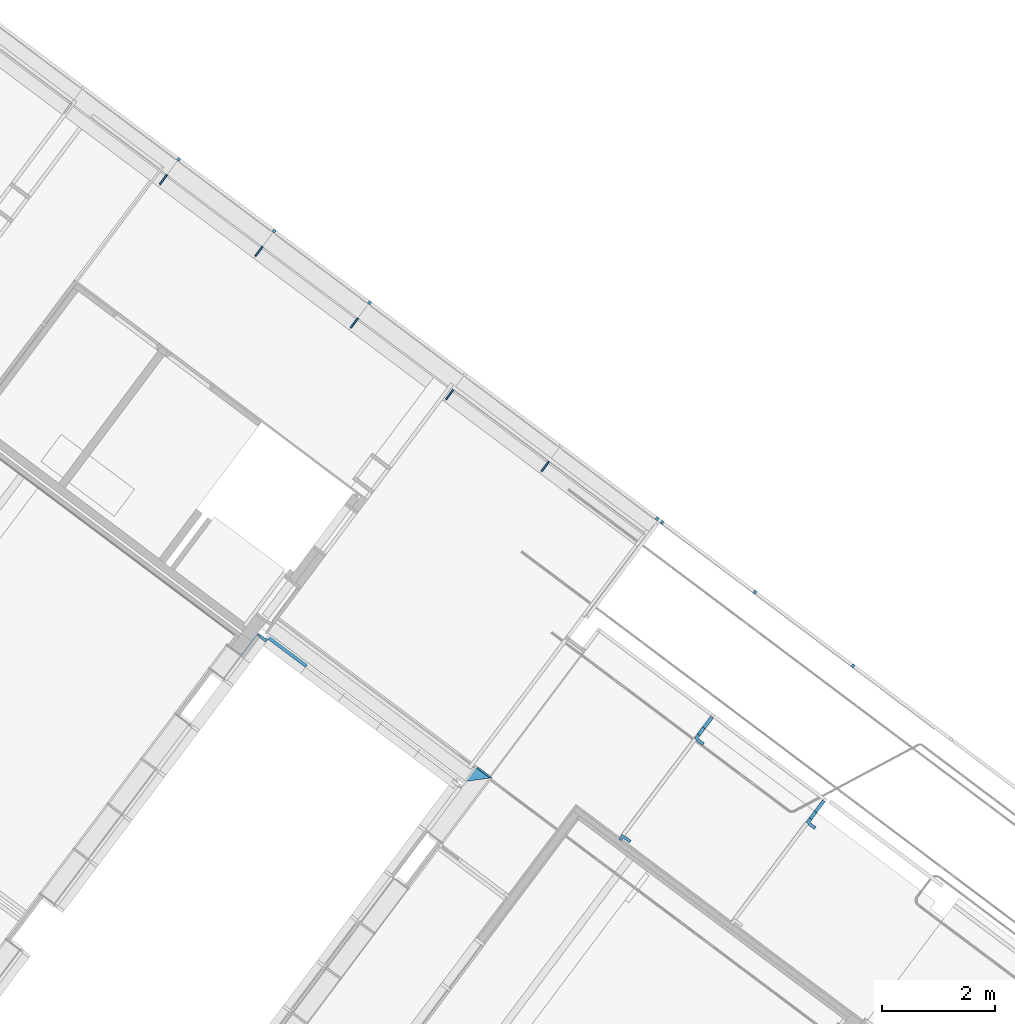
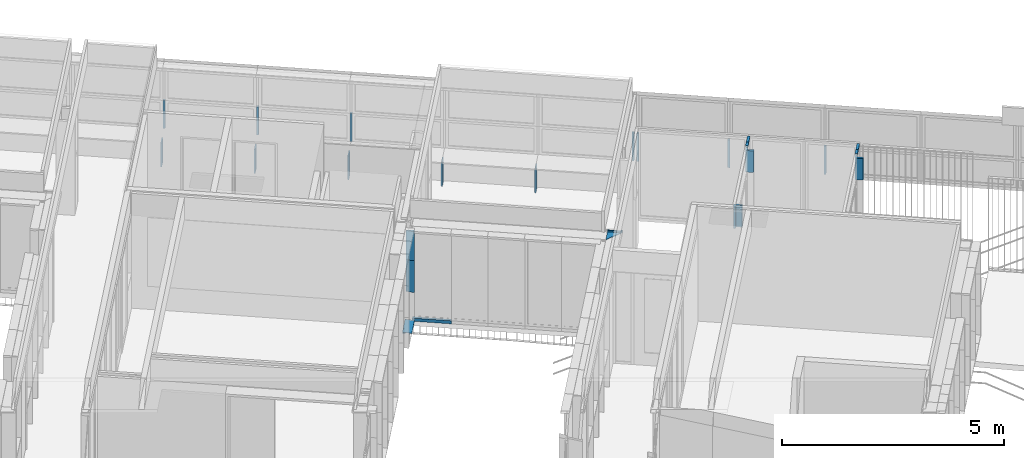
# One storey, part 105 of 243: 24 members, 10 elements without a shape of their own.
"""IFC2X3 building model written with IfcOpenShell, lengths in metres."""

import ifcopenshell
import ifcopenshell.guid

model = None  # the IFC model being written
_history = None  # IfcOwnerHistory: only IFC2X3 demands one
_inside = {}  # id of a spatial element -> (the spatial element, [elements in it])
_under = {}  # id of a project, library or spatial element -> (it, [spatial elements below it])
_declared = {}  # id of a project -> (the project, [libraries it declares])
_typed = {}  # id of a type object -> (the type object, [elements of that type])
_made_of = {}  # id of a material, layer set ... -> (it, [elements and type objects made of it])


def new_model(schema):
    """Start an empty IFC model of exactly this schema.

    Asked for "IFC4X3", IfcOpenShell would pick the latest addendum, in which some entities
    have other attributes; the version numbers below select the first issue.
    IFC2X3 requires an IfcOwnerHistory on every rooted entity: one is made here for all.
    """
    global model, _history
    if schema == "IFC4X3":
        model = ifcopenshell.file(schema_version=(4, 3, 0, 0))
    else:
        model = ifcopenshell.file(schema=schema)
    _inside.clear()
    _under.clear()
    _declared.clear()
    _typed.clear()
    _made_of.clear()
    _history = None
    if model.schema == "IFC2X3":
        org = make("IfcOrganization", Name="unknown")
        user = make(
            "IfcPersonAndOrganization",
            ThePerson=make("IfcPerson", FamilyName="unknown"),
            TheOrganization=org,
        )
        app = make(
            "IfcApplication",
            ApplicationDeveloper=org,
            Version="unknown",
            ApplicationFullName="unknown",
            ApplicationIdentifier="unknown",
        )
        _history = make(
            "IfcOwnerHistory",
            OwningUser=user,
            OwningApplication=app,
            ChangeAction="ADDED",
            CreationDate=0,
        )
    return model


def make(cls, **values):
    """One entity of the class cls with the attributes given. An attribute that is None is left unset."""
    return model.create_entity(
        cls, **{name: value for name, value in values.items() if value is not None}
    )


def entity(cls, *values):
    """Any entity or typed value of the class cls, its attributes in the order of the schema. None: left unset."""
    e = model.create_entity(cls)
    for i, value in enumerate(values):
        if value is not None:
            e[i] = value
    return e


def rooted(cls, **values):
    """An entity with a GlobalId (a new one), such as an element, a storey or a relation."""
    return make(cls, GlobalId=ifcopenshell.guid.new(), OwnerHistory=_history, **values)


def si_unit(unit_type, name, prefix=None):
    """IfcSIUnit, for example si_unit("LENGTHUNIT", "METRE", prefix="MILLI")."""
    return make("IfcSIUnit", UnitType=unit_type, Prefix=prefix, Name=name)


def converted_unit(unit_type, name, factor, base, dimensions=None, offset=None):
    """IfcConversionBasedUnit, such as the inch: factor (a typed value) times the base unit."""
    return make(
        "IfcConversionBasedUnit"
        if offset is None
        else "IfcConversionBasedUnitWithOffset",
        ConversionOffset=offset,
        Dimensions=None
        if dimensions is None
        else entity("IfcDimensionalExponents", *dimensions),
        UnitType=unit_type,
        Name=name,
        ConversionFactor=make(
            "IfcMeasureWithUnit", ValueComponent=factor, UnitComponent=base
        ),
    )


def derived_unit(unit_type, elements):
    """IfcDerivedUnit: a product of units, each with its exponent."""
    return make(
        "IfcDerivedUnit",
        Elements=[
            make("IfcDerivedUnitElement", Unit=unit, Exponent=power)
            for unit, power in elements
        ],
        UnitType=unit_type,
    )


def assignment(units):
    """IfcUnitAssignment: the units of a project."""
    return None if units is None else make("IfcUnitAssignment", Units=units)


def point(xyz):
    """IfcCartesianPoint."""
    return None if xyz is None else make("IfcCartesianPoint", Coordinates=xyz)


def direction(xyz):
    """IfcDirection."""
    return None if xyz is None else make("IfcDirection", DirectionRatios=xyz)


def frame(location, z_axis=None, x_axis=None):
    """IfcAxis2Placement3D, a coordinate frame: its origin and axes. An axis left out is left unset."""
    return make(
        "IfcAxis2Placement3D",
        Location=point(location),
        Axis=direction(z_axis),
        RefDirection=direction(x_axis),
    )


def frame_2d(location, x_axis=None):
    """IfcAxis2Placement2D, a coordinate frame in the plane: its origin and x axis."""
    return make(
        "IfcAxis2Placement2D", Location=point(location), RefDirection=direction(x_axis)
    )


def origin():
    """The frame at (0, 0, 0) with its axes left unset."""
    return frame((0.0, 0.0, 0.0))


def place(relative_to, where):
    """IfcLocalPlacement: puts the frame where relative to a parent placement (None: the world)."""
    return make(
        "IfcLocalPlacement", PlacementRelTo=relative_to, RelativePlacement=where
    )


def context(
    kind, dimensions, precision=None, world=None, true_north=None, identifier=None
):
    """IfcGeometricRepresentationContext, for example the 3D "Model" context."""
    return make(
        "IfcGeometricRepresentationContext",
        ContextIdentifier=identifier,
        ContextType=kind,
        CoordinateSpaceDimension=dimensions,
        Precision=precision,
        WorldCoordinateSystem=world,
        TrueNorth=true_north,
    )


def subcontext(parent, identifier, kind, view, scale=None):
    """IfcGeometricRepresentationSubContext, for example "Body" below "Model"."""
    return make(
        "IfcGeometricRepresentationSubContext",
        ContextIdentifier=identifier,
        ContextType=kind,
        ParentContext=parent,
        TargetScale=scale,
        TargetView=view,
    )


def project(units=None, contexts=None):
    """IfcProject with its units and contexts."""
    return rooted(
        "IfcProject",
        Name="project",
        RepresentationContexts=contexts,
        UnitsInContext=assignment(units),
    )


def spatial(cls, under=None, at=None, **own):
    """A site, building, storey or space (cls), placed at a placement, below another one or the project."""
    s = rooted(cls, ObjectPlacement=at, **own)
    if under is not None:
        _under.setdefault(under.id(), (under, []))[1].append(s)
    return s


def polyline(points):
    """IfcPolyline through the points."""
    return make("IfcPolyline", Points=[point(p) for p in points])


def circle_curve(where, radius):
    """IfcCircle in the frame where."""
    return make("IfcCircle", Position=where, Radius=radius)


def parameter(value):
    """IfcParameterValue: where a trimmed curve begins or ends, as a parameter of its basis curve."""
    return model.create_entity("IfcParameterValue", value)


def trimmed(basis, trim1, trim2, sense, master):
    """IfcTrimmedCurve: the piece of a basis curve between two trims."""
    return make(
        "IfcTrimmedCurve",
        BasisCurve=basis,
        Trim1=trim1,
        Trim2=trim2,
        SenseAgreement=sense,
        MasterRepresentation=master,
    )


def segment(curve, same_sense, transition):
    """IfcCompositeCurveSegment."""
    return make(
        "IfcCompositeCurveSegment",
        Transition=transition,
        SameSense=same_sense,
        ParentCurve=curve,
    )


def composite_curve(segments, self_intersect=None):
    """IfcCompositeCurve: segments joined end to end."""
    return make("IfcCompositeCurve", Segments=segments, SelfIntersect=self_intersect)


def profile(cls, at=None, kind="AREA", **sizes):
    """A parametric profile (cls). Its sizes go by their IFC names, for example OverallWidth=200.0."""
    return make(cls, ProfileType=kind, Position=at, **sizes)


def rectangle(**sizes):
    """IfcRectangleProfileDef."""
    return profile("IfcRectangleProfileDef", **sizes)


def outline(outer, holes=None, kind="AREA"):
    """IfcArbitraryClosedProfileDef: a profile drawn as a closed curve; with holes, ...WithVoids."""
    if holes is None:
        return make("IfcArbitraryClosedProfileDef", ProfileType=kind, OuterCurve=outer)
    return make(
        "IfcArbitraryProfileDefWithVoids",
        ProfileType=kind,
        OuterCurve=outer,
        InnerCurves=holes,
    )


def extrude(swept, where, along, depth):
    """IfcExtrudedAreaSolid: the profile swept, set in the frame where, extruded along a direction by depth."""
    return make(
        "IfcExtrudedAreaSolid",
        SweptArea=swept,
        Position=where,
        ExtrudedDirection=direction(along),
        Depth=depth,
    )


def clip(a, b, op="DIFFERENCE"):
    """IfcBooleanClippingResult: the solid a cut by the half space b."""
    return make(
        "IfcBooleanClippingResult", Operator=op, FirstOperand=a, SecondOperand=b
    )


def halfspace(plane, agree):
    """IfcHalfSpaceSolid: all space on one side of the plane z = 0 of the frame plane."""
    return make(
        "IfcHalfSpaceSolid",
        BaseSurface=make("IfcPlane", Position=plane),
        AgreementFlag=agree,
    )


def shape(context_of_items, identifier, shape_type, items):
    """IfcShapeRepresentation: the items that make up one representation, for example the "Body"."""
    return make(
        "IfcShapeRepresentation",
        ContextOfItems=context_of_items,
        RepresentationIdentifier=identifier,
        RepresentationType=shape_type,
        Items=items,
    )


def source(mapping_origin, context_of_items, identifier, shape_type, items):
    """IfcRepresentationMap: a shape defined once, which mapped items show again and again."""
    return make(
        "IfcRepresentationMap",
        MappingOrigin=mapping_origin,
        MappedRepresentation=shape(context_of_items, identifier, shape_type, items),
    )


def transform(
    local_origin,
    x_axis=None,
    y_axis=None,
    z_axis=None,
    scale=None,
    scale2=None,
    scale3=None,
    uniform=True,
):
    """IfcCartesianTransformationOperator3D, or its non-uniform kind. x_axis, y_axis, z_axis: its Axis1, 2, 3."""
    if uniform:
        return make(
            "IfcCartesianTransformationOperator3D",
            Axis1=direction(x_axis),
            Axis2=direction(y_axis),
            LocalOrigin=point(local_origin),
            Scale=scale,
            Axis3=direction(z_axis),
        )
    return make(
        "IfcCartesianTransformationOperator3DnonUniform",
        Axis1=direction(x_axis),
        Axis2=direction(y_axis),
        LocalOrigin=point(local_origin),
        Scale=scale,
        Axis3=direction(z_axis),
        Scale2=scale2,
        Scale3=scale3,
    )


def mapped(mapping_source, mapping_target):
    """IfcMappedItem: shows the shape of a source again, moved by a transform."""
    return make(
        "IfcMappedItem", MappingSource=mapping_source, MappingTarget=mapping_target
    )


def material(Name=None, Category=None):
    """IfcMaterial."""
    return make("IfcMaterial", Name=Name, Category=Category)


def made_of(thing, what):
    """Note that an element or type object is made of a material, layer set ...; save() writes the relation."""
    if what is not None:
        _made_of.setdefault(what.id(), (what, []))[1].append(thing)
    return thing


def type_object(cls, material=None, **own):
    """A type object (cls), such as IfcWallType, which elements share."""
    return made_of(rooted(cls, **own), material)


def type_shapes(of_type, sources):
    """Give a type object the sources (RepresentationMaps) that its elements show as mapped items."""
    of_type.RepresentationMaps = sources


def element(
    cls,
    number,
    at=None,
    inside=None,
    cuts=None,
    type_object=None,
    material=None,
    context=None,
    identifier="Body",
    shape_type=None,
    held_by="IfcProductDefinitionShape",
    body=None,
    shapes=None,
    **own,
):
    """One element of the class cls, such as IfcWall. Its Tag is "e" and its number.

    at: its placement. inside: the storey or other place that contains it. cuts: it is an
    opening in that element (IfcRelVoidsElement). A single representation is given by context,
    identifier, shape_type and body (its items); several are given by shapes. held_by: the class
    of the entity that holds the representations. save() writes the other relations.
    """
    e = rooted(cls, Tag="e%d" % number, ObjectPlacement=at, **own)
    if body is not None:
        shapes = [shape(context, identifier, shape_type, body)]
    if shapes is not None:
        e.Representation = make(held_by, Representations=shapes)
    if inside is not None:
        _inside.setdefault(inside.id(), (inside, []))[1].append(e)
    if cuts is not None:
        rooted(
            "IfcRelVoidsElement", RelatingBuildingElement=cuts, RelatedOpeningElement=e
        )
    if type_object is not None:
        _typed.setdefault(type_object.id(), (type_object, []))[1].append(e)
    return made_of(e, material)


def aggregate(whole, parts):
    """IfcRelAggregates: a whole, such as a stair, and the parts it consists of."""
    return rooted("IfcRelAggregates", RelatingObject=whole, RelatedObjects=parts)


def save(model, path):
    """Write the relations noted so far, then the file.

    IfcRelAggregates (storeys below a building ...), IfcRelContainedInSpatialStructure (elements
    in a storey), IfcRelDefinesByType, IfcRelAssociatesMaterial and IfcRelDeclares: one each for
    every whole, place, type object, material and project.
    """
    for whole, parts in _under.values():
        aggregate(whole, parts)
    for where, things in _inside.values():
        rooted(
            "IfcRelContainedInSpatialStructure",
            RelatedElements=things,
            RelatingStructure=where,
        )
    for kind, things in _typed.values():
        rooted("IfcRelDefinesByType", RelatedObjects=things, RelatingType=kind)
    for what, things in _made_of.values():
        rooted("IfcRelAssociatesMaterial", RelatedObjects=things, RelatingMaterial=what)
    for by, libraries in _declared.values():
        rooted("IfcRelDeclares", RelatingContext=by, RelatedDefinitions=libraries)
    model.write(path)


model = new_model("IFC2X3")

# Units and contexts
model_context = context("Model", 3, precision=1e-05, world=origin(), true_north=direction((6.123031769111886e-17, 1.0)))
body_context = subcontext(model_context, "Body", "Model", "MODEL_VIEW")
ifc_project = project(units=[si_unit("LENGTHUNIT", "METRE"), si_unit("AREAUNIT", "SQUARE_METRE"), si_unit("VOLUMEUNIT", "CUBIC_METRE"), converted_unit("PLANEANGLEUNIT", "DEGREE", entity("IfcRatioMeasure", 0.017453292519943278), si_unit("PLANEANGLEUNIT", "RADIAN"), dimensions=[0, 0, 0, 0, 0, 0, 0]), si_unit("MASSUNIT", "GRAM", prefix="KILO"), derived_unit("MASSDENSITYUNIT", [(si_unit("MASSUNIT", "GRAM", prefix="KILO"), 1), (si_unit("LENGTHUNIT", "METRE"), -3)]), derived_unit("IONCONCENTRATIONUNIT", [(si_unit("MASSUNIT", "GRAM", prefix="KILO"), 1), (si_unit("LENGTHUNIT", "METRE"), -3)]), derived_unit("MOMENTOFINERTIAUNIT", [(si_unit("LENGTHUNIT", "METRE"), 4)]), si_unit("TIMEUNIT", "SECOND"), si_unit("FREQUENCYUNIT", "HERTZ"), si_unit("THERMODYNAMICTEMPERATUREUNIT", "DEGREE_CELSIUS"), derived_unit("THERMALTRANSMITTANCEUNIT", [(si_unit("MASSUNIT", "GRAM", prefix="KILO"), 1), (si_unit("THERMODYNAMICTEMPERATUREUNIT", "KELVIN"), -1), (si_unit("TIMEUNIT", "SECOND"), -3)]), derived_unit("THERMALCONDUCTANCEUNIT", [(si_unit("MASSUNIT", "GRAM", prefix="KILO"), 1), (si_unit("THERMODYNAMICTEMPERATUREUNIT", "KELVIN"), -1), (si_unit("TIMEUNIT", "SECOND"), -3), (si_unit("LENGTHUNIT", "METRE"), 1)]), derived_unit("VOLUMETRICFLOWRATEUNIT", [(si_unit("LENGTHUNIT", "METRE"), 3), (si_unit("TIMEUNIT", "SECOND"), -1)]), derived_unit("MASSFLOWRATEUNIT", [(si_unit("MASSUNIT", "GRAM", prefix="KILO"), 1), (si_unit("TIMEUNIT", "SECOND"), -1)]), derived_unit("ROTATIONALFREQUENCYUNIT", [(si_unit("TIMEUNIT", "SECOND"), -1)]), si_unit("ELECTRICCURRENTUNIT", "AMPERE"), si_unit("ELECTRICVOLTAGEUNIT", "VOLT"), si_unit("POWERUNIT", "WATT"), si_unit("FORCEUNIT", "NEWTON", prefix="KILO"), si_unit("ILLUMINANCEUNIT", "LUX"), si_unit("LUMINOUSFLUXUNIT", "LUMEN"), si_unit("LUMINOUSINTENSITYUNIT", "CANDELA"), derived_unit("USERDEFINED", [(si_unit("MASSUNIT", "GRAM", prefix="KILO"), -1), (si_unit("LENGTHUNIT", "METRE"), -2), (si_unit("TIMEUNIT", "SECOND"), 3), (si_unit("LUMINOUSFLUXUNIT", "LUMEN"), 1)]), derived_unit("USERDEFINED", [(si_unit("MASSUNIT", "GRAM", prefix="KILO"), 1), (si_unit("TIMEUNIT", "SECOND"), -3), (si_unit("LENGTHUNIT", "METRE"), 3), (si_unit("ELECTRICCURRENTUNIT", "AMPERE"), -2)]), derived_unit("SOUNDPOWERUNIT", [(si_unit("MASSUNIT", "GRAM", prefix="KILO"), 1), (si_unit("TIMEUNIT", "SECOND"), -3), (si_unit("LENGTHUNIT", "METRE"), 2)]), derived_unit("SOUNDPRESSUREUNIT", [(si_unit("MASSUNIT", "GRAM", prefix="KILO"), 1), (si_unit("LENGTHUNIT", "METRE"), -1), (si_unit("TIMEUNIT", "SECOND"), -2)]), derived_unit("LINEARVELOCITYUNIT", [(si_unit("LENGTHUNIT", "METRE"), 1), (si_unit("TIMEUNIT", "SECOND"), -1)]), si_unit("PRESSUREUNIT", "PASCAL"), derived_unit("USERDEFINED", [(si_unit("MASSUNIT", "GRAM", prefix="KILO"), 1), (si_unit("LENGTHUNIT", "METRE"), -2), (si_unit("TIMEUNIT", "SECOND"), -2)]), derived_unit("LINEARFORCEUNIT", [(si_unit("MASSUNIT", "GRAM", prefix="KILO"), 1), (si_unit("TIMEUNIT", "SECOND"), -2)]), derived_unit("PLANARFORCEUNIT", [(si_unit("MASSUNIT", "GRAM", prefix="KILO"), 1), (si_unit("LENGTHUNIT", "METRE"), -1), (si_unit("TIMEUNIT", "SECOND"), -2)]), derived_unit("SPECIFICHEATCAPACITYUNIT", [(si_unit("THERMODYNAMICTEMPERATUREUNIT", "KELVIN"), -1), (si_unit("LENGTHUNIT", "METRE"), 2), (si_unit("TIMEUNIT", "SECOND"), -2)]), derived_unit("HEATINGVALUEUNIT", [(si_unit("LENGTHUNIT", "METRE"), 2), (si_unit("TIMEUNIT", "SECOND"), -2)]), derived_unit("VAPORPERMEABILITYUNIT", [(si_unit("LENGTHUNIT", "METRE"), -1), (si_unit("TIMEUNIT", "SECOND"), 1)]), derived_unit("DYNAMICVISCOSITYUNIT", [(si_unit("MASSUNIT", "GRAM", prefix="KILO"), 1), (si_unit("TIMEUNIT", "SECOND"), -1), (si_unit("LENGTHUNIT", "METRE"), -1)]), derived_unit("THERMALEXPANSIONCOEFFICIENTUNIT", [(si_unit("THERMODYNAMICTEMPERATUREUNIT", "KELVIN"), -1)]), derived_unit("MODULUSOFELASTICITYUNIT", [(si_unit("MASSUNIT", "GRAM", prefix="KILO"), 1), (si_unit("LENGTHUNIT", "METRE"), -1), (si_unit("TIMEUNIT", "SECOND"), -2)]), derived_unit("ISOTHERMALMOISTURECAPACITYUNIT", [(si_unit("LENGTHUNIT", "METRE"), 3), (si_unit("MASSUNIT", "GRAM", prefix="KILO"), -1)]), derived_unit("MOISTUREDIFFUSIVITYUNIT", [(si_unit("TIMEUNIT", "SECOND"), -1), (si_unit("LENGTHUNIT", "METRE"), 2)])], contexts=[model_context])

# Site, building, storey
site_placement = place(None, frame((0.0, 0.0, 235.0), z_axis=(0.0, 0.0, 1.0), x_axis=(-0.7996477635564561, 0.6004693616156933, 0.0)))
site = spatial("IfcSite", under=ifc_project, at=site_placement, Name="Default", CompositionType="ELEMENT")
building_placement = place(site_placement, origin())
building = spatial("IfcBuilding", under=site, at=building_placement, CompositionType="ELEMENT")
storey_placement = place(building_placement, origin())
storey = spatial("IfcBuildingStorey", under=building, at=storey_placement, Name="P0- Escola", CompositionType="ELEMENT", Elevation=0.0)

# Curtain wall, members
curtain_wall_type_1 = type_object("IfcCurtainWallType", Name="Muro cortina:MC- EXT- MC2", PredefinedType="NOTDEFINED")
curtain_wall_1_placement = place(storey_placement, origin())
curtain_wall_1 = element("IfcCurtainWall", 1, at=curtain_wall_1_placement, inside=storey, type_object=curtain_wall_type_1, Name="Muro cortina:MC- EXT- MC2", ObjectType="Muro cortina:MC- EXT- MC2")
ifc_material_1 = material(Name="_Alumini- T1- Perfil")
member_type_1 = type_object("IfcMemberType", Name="Montante rectangular:MC- Alu- 140x52,5 cm- Fa patis- Centre", PredefinedType="MULLION", material=ifc_material_1)
shared_shape_1 = source(origin(), body_context, "Body", "SweptSolid", [
    extrude(outline(polyline([(-0.11699999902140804, -0.026250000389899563), (0.021999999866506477, -0.026250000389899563), (0.021999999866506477, -0.015000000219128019), (0.07299999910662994, -0.015000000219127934), (0.07299999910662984, 0.015000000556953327), (0.02200000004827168, 0.015000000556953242), (0.02200000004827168, 0.026250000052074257), (-0.11699999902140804, 0.026250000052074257), (-0.11699999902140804, -0.026250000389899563)])), frame((-0.026250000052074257, 0.022999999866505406, -0.8750000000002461), z_axis=(0.0, 0.0, 1.0), x_axis=(0.0, -1.0, 0.0)), (0.0, 0.0, 1.0), 0.8750000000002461),
])
type_shapes(member_type_1, [shared_shape_1])
member_1_placement = place(curtain_wall_1_placement, frame((41.04514768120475, -36.44138994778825, 0.8200000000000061), z_axis=(0.0, 0.0, -1.0), x_axis=(0.0, -1.0, 0.0)))
member_1 = element("IfcMember", 2, at=member_1_placement, type_object=member_type_1, material=ifc_material_1, Name="Montante rectangular:MC- Alu- 140x52,5 cm- Fa patis- Centre", ObjectType="Montante rectangular:MC- Alu- 140x52,5 cm- Fa patis- Centre", context=body_context, shape_type="MappedRepresentation", body=[
    mapped(shared_shape_1, transform((0.0, 0.0, 0.0), scale=1.0)),
])
member_type_2 = type_object("IfcMemberType", Name="Montante rectangular:MC- Alu- 140x52,5 cm- Fa patis- inferior", PredefinedType="MULLION", material=ifc_material_1)
shared_shape_2 = source(origin(), body_context, "Body", "SweptSolid", [
    extrude(outline(composite_curve([segment(polyline([(0.1278672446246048, -0.025867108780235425), (0.14416724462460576, -0.025867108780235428)]), True, "CONTINUOUS"), segment(polyline([(0.14416724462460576, -0.025867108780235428), (0.1441672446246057, 0.009132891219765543)]), True, "CONTINUOUS"), segment(polyline([(0.1441672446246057, 0.009132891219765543), (0.06786724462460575, 0.00913289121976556)]), True, "CONTINUOUS"), segment(polyline([(0.06786724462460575, 0.00913289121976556), (0.06786724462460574, -0.021159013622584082)]), True, "CONTINUOUS"), segment(polyline([(0.06786724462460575, -0.021159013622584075), (-0.030132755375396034, -0.012332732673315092)]), True, "CONTINUOUS"), segment(polyline([(-0.03013275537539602, -0.012332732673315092), (-0.030132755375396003, 0.02713289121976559)]), True, "CONTINUOUS"), segment(polyline([(-0.030132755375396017, 0.027132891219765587), (-0.0021327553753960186, 0.027132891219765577)]), True, "CONTINUOUS"), segment(polyline([(-0.0021327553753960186, 0.02713289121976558), (-0.0021327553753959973, 0.02913289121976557)]), True, "CONTINUOUS"), segment(polyline([(-0.0021327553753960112, 0.02913289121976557), (-0.032132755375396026, 0.029132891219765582)]), True, "CONTINUOUS"), segment(polyline([(-0.032132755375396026, 0.029132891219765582), (-0.03213275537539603, -0.012152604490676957)]), True, "CONTINUOUS"), segment(polyline([(-0.03213275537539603, -0.012152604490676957), (-0.0701327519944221, -0.008730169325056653)]), True, "CONTINUOUS"), segment(polyline([(-0.0701327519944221, -0.008730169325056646), (-0.0701327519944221, 0.005766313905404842)]), True, "CONTINUOUS"), segment(trimmed(circle_curve(frame_2d((-0.0696327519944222, 0.00576631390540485), x_axis=(-1.0, 0.0)), 0.0004999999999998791), [parameter(269.999999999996)], [parameter(0.0)], True, "PARAMETER"), False, "CONTINUOUS"), segment(polyline([(-0.0696327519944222, 0.0062663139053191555), (-0.06213275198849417, 0.006266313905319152)]), True, "CONTINUOUS"), segment(polyline([(-0.06213275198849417, 0.006266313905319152), (-0.06213275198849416, 0.008266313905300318)]), True, "CONTINUOUS"), segment(polyline([(-0.06213275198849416, 0.008266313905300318), (-0.07013275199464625, 0.00826631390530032)]), True, "CONTINUOUS"), segment(trimmed(circle_curve(frame_2d((-0.07013275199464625, 0.006266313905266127), x_axis=(0.0, 1.0)), 0.0020000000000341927), [parameter(0.0)], [parameter(90.00000002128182)], True, "PARAMETER"), True, "CONTINUOUS"), segment(polyline([(-0.07213275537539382, 0.00626631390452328), (-0.07213275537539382, -0.008730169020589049)]), True, "CONTINUOUS"), segment(trimmed(circle_curve(frame_2d((-0.07013275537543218, -0.008730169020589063), x_axis=(-1.0, 0.0)), 0.0019999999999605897), [parameter(0.0)], [parameter(84.85359280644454)], True, "PARAMETER"), True, "CONTINUOUS"), segment(polyline([(-0.07031215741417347, -0.010722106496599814), (0.06786724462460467, -0.023167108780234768)]), True, "CONTINUOUS"), segment(polyline([(0.06786724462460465, -0.02316710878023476), (0.12786724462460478, -0.02316710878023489)]), True, "CONTINUOUS"), segment(polyline([(0.12786724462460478, -0.02316710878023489), (0.1278672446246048, -0.025867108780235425)]), True, "CONTINUOUS")], self_intersect=False)), frame((-0.029132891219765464, 0.06786724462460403, -0.518199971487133), z_axis=(0.0, 0.0, 1.0), x_axis=(0.0, -1.0, 0.0)), (0.0, 0.0, 1.0), 0.518199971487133),
])
type_shapes(member_type_2, [shared_shape_2])
member_2_placement = place(curtain_wall_1_placement, frame((41.04514768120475, -35.92318997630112, -0.02), z_axis=(0.0, 1.0, 0.0), x_axis=(0.0, 0.0, -1.0)))
member_2 = element("IfcMember", 3, at=member_2_placement, type_object=member_type_2, material=ifc_material_1, Name="Montante rectangular:MC- Alu- 140x52,5 cm- Fa patis- inferior", ObjectType="Montante rectangular:MC- Alu- 140x52,5 cm- Fa patis- inferior", context=body_context, shape_type="MappedRepresentation", body=[
    mapped(shared_shape_2, transform((0.0, 0.0, 0.0), scale=1.0)),
])
member_type_3 = type_object("IfcMemberType", Name="Montante rectangular:MC- Alu- 140x52,5 cm- Fa patis- Centre", PredefinedType="MULLION", material=ifc_material_1)
shared_shape_3 = source(origin(), body_context, "Body", "SweptSolid", [
    extrude(outline(polyline([(-0.11699999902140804, -0.026250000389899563), (0.021999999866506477, -0.026250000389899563), (0.021999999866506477, -0.015000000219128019), (0.07299999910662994, -0.015000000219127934), (0.07299999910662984, 0.015000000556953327), (0.02200000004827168, 0.015000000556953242), (0.02200000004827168, 0.026250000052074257), (-0.11699999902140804, 0.026250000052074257), (-0.11699999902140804, -0.026250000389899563)])), frame((-0.026250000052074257, 0.022999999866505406, -0.79749999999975), z_axis=(0.0, 0.0, 1.0), x_axis=(0.0, -1.0, 0.0)), (0.0, 0.0, 1.0), 0.79749999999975),
])
type_shapes(member_type_3, [shared_shape_3])
member_3_placement = place(curtain_wall_1_placement, frame((41.04514768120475, -36.44138994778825, 1.6950000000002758), z_axis=(0.0, 0.0, -1.0), x_axis=(0.0, -1.0, 0.0)))
member_3 = element("IfcMember", 4, at=member_3_placement, type_object=member_type_3, material=ifc_material_1, Name="Montante rectangular:MC- Alu- 140x52,5 cm- Fa patis- Centre", ObjectType="Montante rectangular:MC- Alu- 140x52,5 cm- Fa patis- Centre", context=body_context, shape_type="MappedRepresentation", body=[
    mapped(shared_shape_3, transform((0.0, 0.0, 0.0), scale=1.0)),
])
aggregate(curtain_wall_1, [member_2, member_1, member_3])

curtain_wall_type_2 = type_object("IfcCurtainWallType", Name="Muro cortina:MC- EXT- MC6", PredefinedType="NOTDEFINED")
curtain_wall_2_placement = place(storey_placement, origin())
curtain_wall_2 = element("IfcCurtainWall", 5, at=curtain_wall_2_placement, inside=storey, type_object=curtain_wall_type_2, Name="Muro cortina:MC- EXT- MC6", ObjectType="Muro cortina:MC- EXT- MC6")
member_type_4 = type_object("IfcMemberType", Name="Montante rectangular:MC- Alu- 50x60 cm- Fa pista- Centre", PredefinedType="MULLION", material=ifc_material_1)
shared_shape_4 = source(origin(), body_context, "Body", "SweptSolid", [
    extrude(rectangle(XDim=0.0600000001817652, YDim=0.05, at=frame_2d((8.673617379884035e-18, 0.0), x_axis=(1.0, 0.0))), frame((0.0, -0.030000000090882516, -0.77), z_axis=(0.0, 0.0, 1.0), x_axis=(0.0, -1.0, 0.0)), (0.0, 0.0, 1.0), 0.77),
])
type_shapes(member_type_4, [shared_shape_4])
member_4_placement = place(curtain_wall_2_placement, frame((47.28414360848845, -42.34019175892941, 0.685), z_axis=(0.0, 0.0, -1.0), x_axis=(1.0, 0.0, 0.0)))
member_4 = element("IfcMember", 6, at=member_4_placement, type_object=member_type_4, material=ifc_material_1, Name="Montante rectangular:MC- Alu- 50x60 cm- Fa pista- Centre", ObjectType="Montante rectangular:MC- Alu- 50x60 cm- Fa pista- Centre", context=body_context, shape_type="MappedRepresentation", body=[
    mapped(shared_shape_4, transform((0.0, 0.0, 0.0), scale=1.0)),
])
member_5_placement = place(curtain_wall_2_placement, frame((45.167143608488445, -42.3401917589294, 0.685), z_axis=(0.0, 0.0, -1.0), x_axis=(1.0, 0.0, 0.0)))
member_5 = element("IfcMember", 7, at=member_5_placement, type_object=member_type_4, material=ifc_material_1, Name="Montante rectangular:MC- Alu- 50x60 cm- Fa pista- Centre", ObjectType="Montante rectangular:MC- Alu- 50x60 cm- Fa pista- Centre", context=body_context, shape_type="MappedRepresentation", body=[
    mapped(shared_shape_4, transform((0.0, 0.0, 0.0), scale=1.0)),
])
member_6_placement = place(curtain_wall_2_placement, frame((43.05014360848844, -42.34019175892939, 0.685), z_axis=(0.0, 0.0, -1.0), x_axis=(1.0, 0.0, 0.0)))
member_6 = element("IfcMember", 8, at=member_6_placement, type_object=member_type_4, material=ifc_material_1, Name="Montante rectangular:MC- Alu- 50x60 cm- Fa pista- Centre", ObjectType="Montante rectangular:MC- Alu- 50x60 cm- Fa pista- Centre", context=body_context, shape_type="MappedRepresentation", body=[
    mapped(shared_shape_4, transform((0.0, 0.0, 0.0), scale=1.0)),
])
member_type_5 = type_object("IfcMemberType", Name="Montante rectangular:MC- Alu- 50x60 cm- Fa pista- Centre", PredefinedType="MULLION", material=ifc_material_1)
shared_shape_5 = source(origin(), body_context, "Body", "SweptSolid", [
    extrude(rectangle(XDim=0.0600000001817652, YDim=0.05, at=frame_2d((-8.673617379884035e-18, 0.0), x_axis=(1.0, 0.0))), frame((-0.025, -0.030000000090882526, -0.7699999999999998), z_axis=(0.0, 0.0, 1.0), x_axis=(0.0, -1.0, 0.0)), (0.0, 0.0, 1.0), 0.7699999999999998),
])
type_shapes(member_type_5, [shared_shape_5])
member_7_placement = place(curtain_wall_2_placement, frame((36.64514768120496, -42.34019175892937, 1.455), z_axis=(0.0, 0.0, 1.0), x_axis=(-1.0, 0.0, 0.0)))
member_7 = element("IfcMember", 9, at=member_7_placement, type_object=member_type_5, material=ifc_material_1, Name="Montante rectangular:MC- Alu- 50x60 cm- Fa pista- Centre", ObjectType="Montante rectangular:MC- Alu- 50x60 cm- Fa pista- Centre", context=body_context, shape_type="MappedRepresentation", body=[
    mapped(shared_shape_5, transform((0.0, 0.0, 0.0), scale=1.0)),
])
aggregate(curtain_wall_2, [member_4, member_5, member_6, member_7])

# Curtain wall, member
curtain_wall_type_3 = type_object("IfcCurtainWallType", PredefinedType="NOTDEFINED")
curtain_wall_3_placement = place(storey_placement, origin())
curtain_wall_3 = element("IfcCurtainWall", 10, at=curtain_wall_3_placement, inside=storey, type_object=curtain_wall_type_3)
member_type_6 = type_object("IfcMemberType", Name="Montante rectangular:MC- Alu- 140x52,5 cm- Fa pista- Superior simple", PredefinedType="MULLION", material=ifc_material_1)
shared_shape_6 = source(origin(), body_context, "Body", "SweptSolid", [
    extrude(rectangle(XDim=0.06000000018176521, YDim=0.05, at=frame_2d((3.469446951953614e-18, 0.0), x_axis=(1.0, 0.0))), frame((-0.025, -0.030000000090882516, -0.24000000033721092), z_axis=(0.0, 0.0, 1.0), x_axis=(0.0, -1.0, 0.0)), (0.0, 0.0, 1.0), 0.24000000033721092),
])
type_shapes(member_type_6, [shared_shape_6])
member_8_placement = place(curtain_wall_3_placement, frame((33.750147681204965, -40.080191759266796, 3.150000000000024), z_axis=(0.0, -1.0, 0.0), x_axis=(0.0, 0.0, 1.0)))
member_8 = element("IfcMember", 11, at=member_8_placement, type_object=member_type_6, material=ifc_material_1, Name="Montante rectangular:MC- Alu- 140x52,5 cm- Fa pista- Superior simple", ObjectType="Montante rectangular:MC- Alu- 140x52,5 cm- Fa pista- Superior simple", context=body_context, shape_type="MappedRepresentation", body=[
    mapped(shared_shape_6, transform((0.0, 0.0, 0.0), scale=1.0)),
])

curtain_wall_4_placement = place(storey_placement, origin())
curtain_wall_4 = element("IfcCurtainWall", 12, at=curtain_wall_4_placement, inside=storey, type_object=curtain_wall_type_3)
member_9_placement = place(curtain_wall_4_placement, frame((31.271147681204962, -40.08019175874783, 3.150000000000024), z_axis=(0.0, -1.0, 0.0), x_axis=(0.0, 0.0, 1.0)))
member_9 = element("IfcMember", 13, at=member_9_placement, type_object=member_type_6, material=ifc_material_1, Name="Montante rectangular:MC- Alu- 140x52,5 cm- Fa pista- Superior simple", ObjectType="Montante rectangular:MC- Alu- 140x52,5 cm- Fa pista- Superior simple", context=body_context, shape_type="MappedRepresentation", body=[
    mapped(shared_shape_6, transform((0.0, 0.0, 0.0), scale=1.0)),
])

# Member
member_type_7 = type_object("IfcMemberType", Name="Montante rectangular:MC- Alu- 140x52,5 cm- Fa pista- Superior simple", PredefinedType="MULLION", material=ifc_material_1)
shared_shape_7 = source(origin(), body_context, "Body", "SweptSolid", [
    extrude(rectangle(XDim=0.06000000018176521, YDim=0.05, at=frame_2d((3.469446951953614e-18, 0.0), x_axis=(1.0, 0.0))), frame((-0.025, -0.030000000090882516, -0.15000000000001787), z_axis=(0.0, 0.0, 1.0), x_axis=(0.0, -1.0, 0.0)), (0.0, 0.0, 1.0), 0.15000000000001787),
])
type_shapes(member_type_7, [shared_shape_7])
member_10_placement = place(curtain_wall_3_placement, frame((33.750147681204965, -39.840191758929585, 3.150000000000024), z_axis=(0.0, -1.0, 0.0), x_axis=(0.0, 0.0, 1.0)))
member_10 = element("IfcMember", 14, at=member_10_placement, type_object=member_type_7, material=ifc_material_1, Name="Montante rectangular:MC- Alu- 140x52,5 cm- Fa pista- Superior simple", ObjectType="Montante rectangular:MC- Alu- 140x52,5 cm- Fa pista- Superior simple", context=body_context, shape_type="MappedRepresentation", body=[
    mapped(shared_shape_7, transform((0.0, 0.0, 0.0), scale=1.0)),
])

aggregate(curtain_wall_3, [member_8, member_10])

# Curtain wall, member
curtain_wall_type_4 = type_object("IfcCurtainWallType", PredefinedType="NOTDEFINED")
curtain_wall_5_placement = place(storey_placement, origin())
curtain_wall_5 = element("IfcCurtainWall", 15, at=curtain_wall_5_placement, inside=storey, type_object=curtain_wall_type_4)
member_type_8 = type_object("IfcMemberType", Name="Montante rectangular:MC- Alu- 140x52,5 cm- Porta- Esquerra", PredefinedType="MULLION", material=ifc_material_1)
shared_shape_8 = source(origin(), body_context, "Body", "SweptSolid", [
    extrude(outline(polyline([(-0.022000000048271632, -0.04406250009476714), (0.11699999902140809, -0.04406250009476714), (0.11699999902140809, 0.008437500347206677), (-0.02199999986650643, 0.008437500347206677), (-0.021999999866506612, 0.06843750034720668), (-0.07299999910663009, 0.0684375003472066), (-0.07299999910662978, -0.03281250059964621), (-0.022000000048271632, -0.032812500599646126), (-0.022000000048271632, -0.04406250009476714)])), frame((-0.0684375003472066, -0.022999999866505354, -0.5920000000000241), z_axis=(0.0, 0.0, 1.0), x_axis=(0.0, -1.0, 0.0)), (0.0, 0.0, 1.0), 0.5920000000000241),
])
type_shapes(member_type_8, [shared_shape_8])
member_11_placement = place(curtain_wall_5_placement, frame((31.271147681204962, -39.69019175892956, 3.0970000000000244), z_axis=(0.0, 0.0, 1.0), x_axis=(0.0, -1.0, 0.0)))
member_11 = element("IfcMember", 16, at=member_11_placement, type_object=member_type_8, material=ifc_material_1, Name="Montante rectangular:MC- Alu- 140x52,5 cm- Porta- Esquerra", ObjectType="Montante rectangular:MC- Alu- 140x52,5 cm- Porta- Esquerra", context=body_context, shape_type="MappedRepresentation", body=[
    mapped(shared_shape_8, transform((0.0, 0.0, 0.0), scale=1.0)),
])
aggregate(curtain_wall_5, [member_11])

# Curtain wall, members
curtain_wall_6_placement = place(storey_placement, origin())
curtain_wall_6 = element("IfcCurtainWall", 17, at=curtain_wall_6_placement, inside=storey, type_object=curtain_wall_type_4)
member_12_placement = place(curtain_wall_6_placement, frame((33.75114768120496, -39.69019175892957, 3.0970000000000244), z_axis=(0.0, 0.0, 1.0), x_axis=(0.0, -1.0, 0.0)))
member_12 = element("IfcMember", 18, at=member_12_placement, type_object=member_type_8, material=ifc_material_1, Name="Montante rectangular:MC- Alu- 140x52,5 cm- Porta- Esquerra", ObjectType="Montante rectangular:MC- Alu- 140x52,5 cm- Porta- Esquerra", context=body_context, shape_type="MappedRepresentation", body=[
    mapped(shared_shape_8, transform((0.0, 0.0, 0.0), scale=1.0)),
])
member_type_9 = type_object("IfcMemberType", Name="Montante rectangular:MC- Alu- 140x52,5 cm- Porta- dreta", PredefinedType="MULLION", material=ifc_material_1)
shared_shape_9 = source(origin(), body_context, "Body", "SweptSolid", [
    extrude(outline(polyline([(-0.022000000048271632, -0.04406250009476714), (0.11699999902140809, -0.04406250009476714), (0.11699999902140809, 0.008437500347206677), (-0.02199999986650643, 0.008437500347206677), (-0.021999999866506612, 0.06843750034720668), (-0.07299999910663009, 0.0684375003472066), (-0.07299999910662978, -0.03281250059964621), (-0.022000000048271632, -0.032812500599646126), (-0.022000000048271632, -0.04406250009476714)])), frame((-0.0684375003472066, -0.022999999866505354, -0.5920000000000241), z_axis=(0.0, 0.0, 1.0), x_axis=(0.0, -1.0, 0.0)), (0.0, 0.0, 1.0), 0.5920000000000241),
])
type_shapes(member_type_9, [shared_shape_9])
member_13_placement = place(curtain_wall_6_placement, frame((33.75114768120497, -37.356191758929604, 2.5050000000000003), z_axis=(0.0, 0.0, -1.0), x_axis=(0.0, 1.0, 0.0)))
member_13 = element("IfcMember", 19, at=member_13_placement, type_object=member_type_9, material=ifc_material_1, Name="Montante rectangular:MC- Alu- 140x52,5 cm- Porta- dreta", ObjectType="Montante rectangular:MC- Alu- 140x52,5 cm- Porta- dreta", context=body_context, shape_type="MappedRepresentation", body=[
    mapped(shared_shape_9, transform((0.0, 0.0, 0.0), scale=1.0)),
])
aggregate(curtain_wall_6, [member_12, member_13])

# Member
member_type_10 = type_object("IfcMemberType", Name="Montante rectangular:MC- Alu- 140x52,5 cm- Fa pista- Superior simple", PredefinedType="MULLION", material=ifc_material_1)
shared_shape_10 = source(origin(), body_context, "Body", "SweptSolid", [
    extrude(rectangle(XDim=0.06000000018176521, YDim=0.05, at=frame_2d((3.469446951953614e-18, 0.0), x_axis=(1.0, 0.0))), frame((-0.025, -0.030000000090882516, -0.1500000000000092), z_axis=(0.0, 0.0, 1.0), x_axis=(0.0, -1.0, 0.0)), (0.0, 0.0, 1.0), 0.1500000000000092),
])
type_shapes(member_type_10, [shared_shape_10])
member_14_placement = place(curtain_wall_4_placement, frame((31.271147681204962, -39.84019175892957, 3.150000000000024), z_axis=(0.0, -1.0, 0.0), x_axis=(0.0, 0.0, 1.0)))
member_14 = element("IfcMember", 20, at=member_14_placement, type_object=member_type_10, material=ifc_material_1, Name="Montante rectangular:MC- Alu- 140x52,5 cm- Fa pista- Superior simple", ObjectType="Montante rectangular:MC- Alu- 140x52,5 cm- Fa pista- Superior simple", context=body_context, shape_type="MappedRepresentation", body=[
    mapped(shared_shape_10, transform((0.0, 0.0, 0.0), scale=1.0)),
])

aggregate(curtain_wall_4, [member_9, member_14])

# Curtain wall, members
curtain_wall_type_5 = type_object("IfcCurtainWallType", Name="Muro cortina:MC- EXT- MC9", PredefinedType="NOTDEFINED")
curtain_wall_7_placement = place(storey_placement, origin())
curtain_wall_7 = element("IfcCurtainWall", 21, at=curtain_wall_7_placement, inside=storey, type_object=curtain_wall_type_5, Name="Muro cortina:MC- EXT- MC9", ObjectType="Muro cortina:MC- EXT- MC9")
member_type_11 = type_object("IfcMemberType", Name="Montante rectangular:MC- Alu- 50x60 cm- Fa pista- Centre", PredefinedType="MULLION", material=ifc_material_1)
shared_shape_11 = source(origin(), body_context, "Body", "SweptSolid", [
    extrude(rectangle(XDim=0.06000000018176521, YDim=0.05, at=frame_2d((3.469446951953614e-18, 0.0), x_axis=(1.0, 0.0))), frame((-0.025, -0.030000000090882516, -0.7650000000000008), z_axis=(0.0, 0.0, 1.0), x_axis=(0.0, -1.0, 0.0)), (0.0, 0.0, 1.0), 0.7650000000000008),
])
type_shapes(member_type_11, [shared_shape_11])
member_15_placement = place(curtain_wall_7_placement, frame((36.5851476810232, -42.34019175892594, 0.685), z_axis=(0.0, 0.0, -1.0), x_axis=(1.0, 0.0, 0.0)))
member_15 = element("IfcMember", 22, at=member_15_placement, type_object=member_type_11, material=ifc_material_1, Name="Montante rectangular:MC- Alu- 50x60 cm- Fa pista- Centre", ObjectType="Montante rectangular:MC- Alu- 50x60 cm- Fa pista- Centre", context=body_context, shape_type="MappedRepresentation", body=[
    mapped(shared_shape_11, transform((0.0, 0.0, 0.0), scale=1.0)),
])
member_type_12 = type_object("IfcMemberType", Name="Montante rectangular:MC- Alu- 50x60 cm- Fa pista- Centre", PredefinedType="MULLION", material=ifc_material_1)
shared_shape_12 = source(origin(), body_context, "Body", "SweptSolid", [
    extrude(rectangle(XDim=0.0600000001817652, YDim=0.05, at=frame_2d((8.673617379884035e-18, 0.0), x_axis=(1.0, 0.0))), frame((0.0, -0.030000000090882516, -0.7650000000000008), z_axis=(0.0, 0.0, 1.0), x_axis=(0.0, -1.0, 0.0)), (0.0, 0.0, 1.0), 0.7650000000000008),
])
type_shapes(member_type_12, [shared_shape_12])
member_16_placement = place(curtain_wall_7_placement, frame((32.32514360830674, -42.340191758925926, 0.685), z_axis=(0.0, 0.0, -1.0), x_axis=(1.0, 0.0, 0.0)))
member_16 = element("IfcMember", 23, at=member_16_placement, type_object=member_type_12, material=ifc_material_1, Name="Montante rectangular:MC- Alu- 50x60 cm- Fa pista- Centre", ObjectType="Montante rectangular:MC- Alu- 50x60 cm- Fa pista- Centre", context=body_context, shape_type="MappedRepresentation", body=[
    mapped(shared_shape_12, transform((0.0, 0.0, 0.0), scale=1.0)),
])
member_17_placement = place(curtain_wall_7_placement, frame((34.50214360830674, -42.34019175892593, 0.685), z_axis=(0.0, 0.0, -1.0), x_axis=(1.0, 0.0, 0.0)))
member_17 = element("IfcMember", 24, at=member_17_placement, type_object=member_type_12, material=ifc_material_1, Name="Montante rectangular:MC- Alu- 50x60 cm- Fa pista- Centre", ObjectType="Montante rectangular:MC- Alu- 50x60 cm- Fa pista- Centre", context=body_context, shape_type="MappedRepresentation", body=[
    mapped(shared_shape_12, transform((0.0, 0.0, 0.0), scale=1.0)),
])
aggregate(curtain_wall_7, [member_15, member_16, member_17])

curtain_wall_type_6 = type_object("IfcCurtainWallType", PredefinedType="NOTDEFINED")
curtain_wall_8_placement = place(storey_placement, origin())
curtain_wall_8 = element("IfcCurtainWall", 25, at=curtain_wall_8_placement, inside=storey, type_object=curtain_wall_type_6)
ifc_material_2 = material(Name="_Fusta massisa- T1")
member_type_13 = type_object("IfcMemberType", Name="Montante rectangular:MC- Fusta- 34x3 cm- Fa Pista- Pota taula", PredefinedType="MULLION", material=ifc_material_2)
shared_shape_13 = source(origin(), body_context, "Body", "SweptSolid", [
    extrude(rectangle(XDim=0.21000000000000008, YDim=0.03000000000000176, at=frame_2d((1.3877787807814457e-17, 1.717376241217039e-16), x_axis=(1.0, 0.0))), frame((0.0, -0.1700000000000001, -0.655000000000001), z_axis=(0.0, 0.0, 1.0), x_axis=(0.0, -1.0, 0.0)), (0.0, 0.0, 1.0), 0.655000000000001),
])
type_shapes(member_type_13, [shared_shape_13])
member_18_placement = place(curtain_wall_8_placement, frame((47.284143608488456, -42.030191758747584, 0.0), z_axis=(0.0, 0.0, -1.0), x_axis=(1.0, 0.0, 0.0)))
member_18 = element("IfcMember", 26, at=member_18_placement, type_object=member_type_13, material=ifc_material_2, Name="Montante rectangular:MC- Fusta- 34x3 cm- Fa Pista- Pota taula", ObjectType="Montante rectangular:MC- Fusta- 34x3 cm- Fa Pista- Pota taula", context=body_context, shape_type="MappedRepresentation", body=[
    mapped(shared_shape_13, transform((0.0, 0.0, 0.0), scale=1.0)),
])
member_19_placement = place(curtain_wall_8_placement, frame((45.16714360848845, -42.03019175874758, 0.0), z_axis=(0.0, 0.0, -1.0), x_axis=(1.0, 0.0, 0.0)))
member_19 = element("IfcMember", 27, at=member_19_placement, type_object=member_type_13, material=ifc_material_2, Name="Montante rectangular:MC- Fusta- 34x3 cm- Fa Pista- Pota taula", ObjectType="Montante rectangular:MC- Fusta- 34x3 cm- Fa Pista- Pota taula", context=body_context, shape_type="MappedRepresentation", body=[
    mapped(shared_shape_13, transform((0.0, 0.0, 0.0), scale=1.0)),
])
member_20_placement = place(curtain_wall_8_placement, frame((43.05014360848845, -42.03019175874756, 0.0), z_axis=(0.0, 0.0, -1.0), x_axis=(1.0, 0.0, 0.0)))
member_20 = element("IfcMember", 28, at=member_20_placement, type_object=member_type_13, material=ifc_material_2, Name="Montante rectangular:MC- Fusta- 34x3 cm- Fa Pista- Pota taula", ObjectType="Montante rectangular:MC- Fusta- 34x3 cm- Fa Pista- Pota taula", context=body_context, shape_type="MappedRepresentation", body=[
    mapped(shared_shape_13, transform((0.0, 0.0, 0.0), scale=1.0)),
])
member_21_placement = place(curtain_wall_8_placement, frame((40.93314360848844, -42.03019175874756, 0.0), z_axis=(0.0, 0.0, -1.0), x_axis=(1.0, 0.0, 0.0)))
member_21 = element("IfcMember", 29, at=member_21_placement, type_object=member_type_13, material=ifc_material_2, Name="Montante rectangular:MC- Fusta- 34x3 cm- Fa Pista- Pota taula", ObjectType="Montante rectangular:MC- Fusta- 34x3 cm- Fa Pista- Pota taula", context=body_context, shape_type="MappedRepresentation", body=[
    mapped(shared_shape_13, transform((0.0, 0.0, 0.0), scale=1.0)),
])
member_22_placement = place(curtain_wall_8_placement, frame((38.81614360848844, -42.030191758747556, 0.0), z_axis=(0.0, 0.0, -1.0), x_axis=(1.0, 0.0, 0.0)))
member_22 = element("IfcMember", 30, at=member_22_placement, type_object=member_type_13, material=ifc_material_2, Name="Montante rectangular:MC- Fusta- 34x3 cm- Fa Pista- Pota taula", ObjectType="Montante rectangular:MC- Fusta- 34x3 cm- Fa Pista- Pota taula", context=body_context, shape_type="MappedRepresentation", body=[
    mapped(shared_shape_13, transform((0.0, 0.0, 0.0), scale=1.0)),
])
aggregate(curtain_wall_8, [member_18, member_19, member_20, member_21, member_22])

# Curtain wall, member
curtain_wall_type_7 = type_object("IfcCurtainWallType", Name="Muro cortina:MC- INT- k2", PredefinedType="NOTDEFINED")
curtain_wall_9_placement = place(storey_placement, origin())
curtain_wall_9 = element("IfcCurtainWall", 31, at=curtain_wall_9_placement, inside=storey, type_object=curtain_wall_type_7, Name="Muro cortina:MC- INT- k2", ObjectType="Muro cortina:MC- INT- k2")
member_type_14 = type_object("IfcMemberType", Name="Montante rectangular:MC- Fusta- 35x3 cm- Pati aules- Remat superior", PredefinedType="MULLION", material=ifc_material_2)
shared_shape_14 = source(origin(), body_context, "Body", "SweptSolid", [
    clip(extrude(outline(polyline([(-0.12166666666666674, -0.02666666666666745), (0.21333333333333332, -0.02666666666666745), (0.2133333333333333, -0.006666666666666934), (-0.09166666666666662, -0.006666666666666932), (-0.09166666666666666, 0.03333333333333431), (-0.12166666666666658, 0.03333333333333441), (-0.12166666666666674, -0.02666666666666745)])), frame((-0.033333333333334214, -0.026666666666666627, -0.34000000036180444), z_axis=(0.0, 0.0, 1.0), x_axis=(0.0, -1.0, 0.0)), (0.0, 0.0, 1.0), 0.34000000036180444), halfspace(frame((0.3048, 0.0, -0.24500000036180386), z_axis=(0.0, -0.7071067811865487, -0.7071067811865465), x_axis=(0.0, -0.7071067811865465, 0.7071067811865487)), False)),
])
type_shapes(member_type_14, [shared_shape_14])
member_23_placement = place(curtain_wall_9_placement, frame((36.590147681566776, -36.78518994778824, 2.565), z_axis=(1.0, 0.0, 0.0), x_axis=(0.0, 0.0, 1.0)))
member_23 = element("IfcMember", 32, at=member_23_placement, type_object=member_type_14, material=ifc_material_2, Name="Montante rectangular:MC- Fusta- 35x3 cm- Pati aules- Remat superior", ObjectType="Montante rectangular:MC- Fusta- 35x3 cm- Pati aules- Remat superior", context=body_context, shape_type="MappedRepresentation", body=[
    mapped(shared_shape_14, transform((0.0, 0.0, 0.0), scale=1.0)),
])
aggregate(curtain_wall_9, [member_23])

curtain_wall_type_8 = type_object("IfcCurtainWallType", PredefinedType="NOTDEFINED")
curtain_wall_10_placement = place(storey_placement, origin())
curtain_wall_10 = element("IfcCurtainWall", 33, at=curtain_wall_10_placement, inside=storey, type_object=curtain_wall_type_8)
member_type_15 = type_object("IfcMemberType", Name="Montante rectangular:MC- Alu- 52x80 cm- Fa pista- inferior", PredefinedType="MULLION", material=ifc_material_1)
shared_shape_15 = source(origin(), body_context, "Body", "SweptSolid", [
    extrude(rectangle(XDim=0.06000000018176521, YDim=0.08500000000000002, at=frame_2d((-5.204170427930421e-18, -6.938893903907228e-18), x_axis=(1.0, 0.0))), frame((-0.0425, 0.030000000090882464, -0.8858000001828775), z_axis=(0.0, 0.0, 1.0), x_axis=(0.0, -1.0, 0.0)), (0.0, 0.0, 1.0), 0.8858000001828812),
])
type_shapes(member_type_15, [shared_shape_15])
member_24_placement = place(curtain_wall_10_placement, frame((40.0743476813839, -36.455189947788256, -0.02), z_axis=(-1.0, 0.0, 0.0), x_axis=(0.0, 0.0, -1.0)))
member_24 = element("IfcMember", 34, at=member_24_placement, type_object=member_type_15, material=ifc_material_1, Name="Montante rectangular:MC- Alu- 52x80 cm- Fa pista- inferior", ObjectType="Montante rectangular:MC- Alu- 52x80 cm- Fa pista- inferior", context=body_context, shape_type="MappedRepresentation", body=[
    mapped(shared_shape_15, transform((0.0, 0.0, 0.0), scale=1.0)),
])
aggregate(curtain_wall_10, [member_24])

save(model, "model.ifc")
